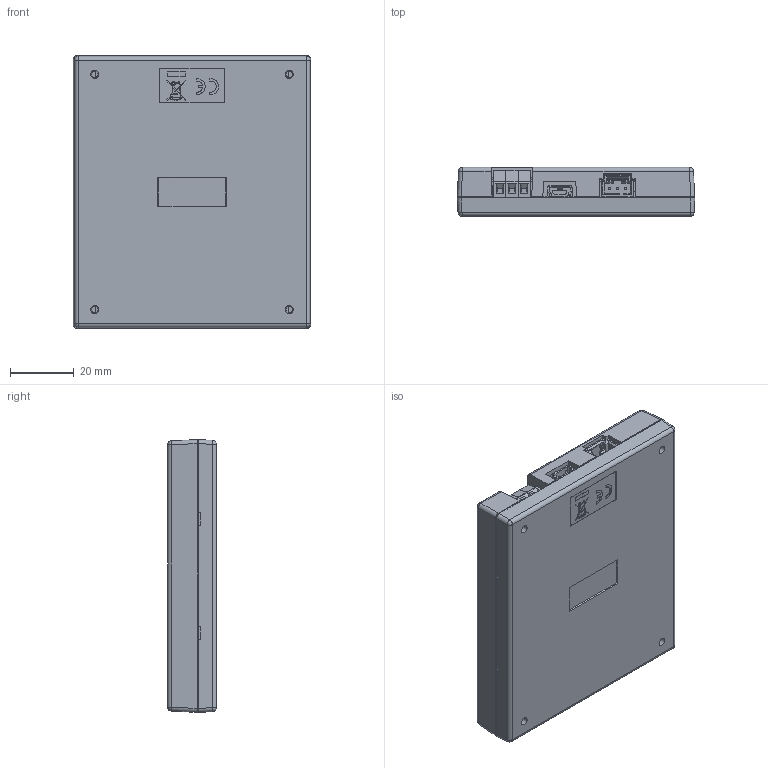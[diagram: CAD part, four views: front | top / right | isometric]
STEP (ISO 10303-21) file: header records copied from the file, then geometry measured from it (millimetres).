
FILE_DESCRIPTION(/* description */ ('Alibre Inc.'),/* implementation_level */ '2;1');
FILE_NAME(/* name */ 'export-74A6972A-77C7-4938-ADCE-BBC5590CC91C',/* time_stamp */ '2024-04-22T12:49:46-06:00',/* author */ (''),/* organization */ (''),/* preprocessor_version */ 'ST-DEVELOPER v17',/* originating_system */ 'Alibre',/* authorisation */ '');
FILE_SCHEMA (('CONFIG_CONTROL_DESIGN'));
Length unit declared in the file: centimetre
Products named in the file (134): 5970766976; 5970766784; RV2; MP1; U4; User_Library-SOT-23-5; U2; 5970765440; 5970765632; R8; 6711470656; 6711471424; L1; 6711470848; 5970764096; C28; 6711471040; C27; 5970766016; 5970766208; C24; 6711470464; U11; 6711470272; U9; C19; C18; C16; 6310671552; C13; C12; 6711470080; C11; C10; C9; 5970766592; 5970766400; C8; C7; C6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
Bounding box: 74.44 x 15.32 x 85.47 mm (x, y, z)
Volume: 40741.7 mm3; surface area: 60906.9 mm2
Topology: 128 solids, 128 shells, 3477 faces, 8903 edges, 5719 vertices
Faces by surface type: plane 2649, cylinder 656, bspline 138, cone 20, sphere 10, torus 4
Full cylindrical faces by diameter (mm): 0.6 x1, 0.889 x2, 0.965 x3, 1 x8, 1.067 x6, 1.321 x4, 2.1 x4, 3.124 x4, 3.175 x4, 8 x2, 10 x1
Entity records: 95363 total; most frequent: CARTESIAN_POINT 19994, ORIENTED_EDGE 13278, DIRECTION 10452, EDGE_CURVE 6639, VECTOR 5102, LINE 5102, VERTEX_POINT 4275, AXIS2_PLACEMENT_3D 3572
